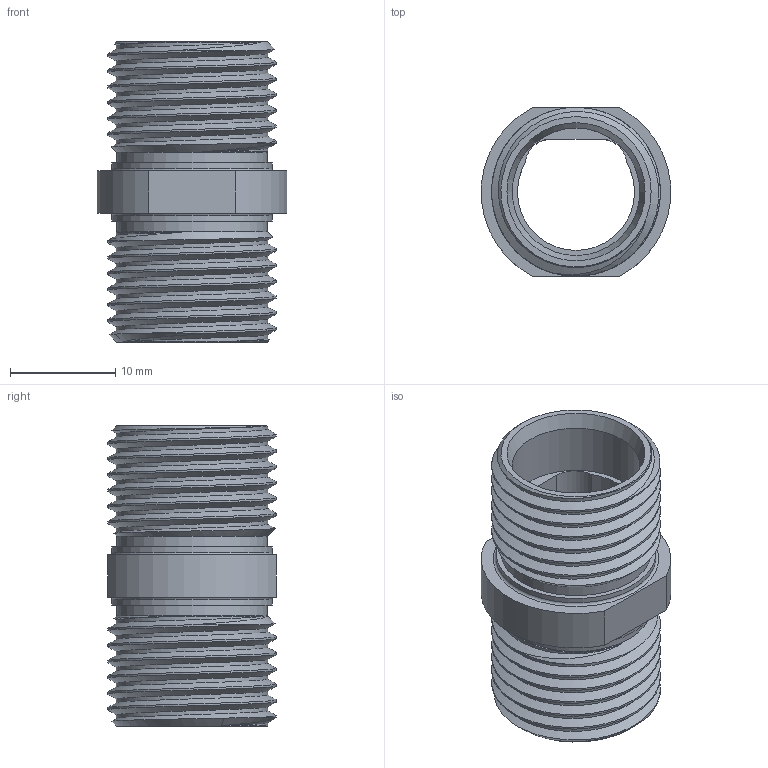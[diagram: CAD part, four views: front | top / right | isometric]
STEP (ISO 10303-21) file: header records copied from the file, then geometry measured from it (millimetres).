
FILE_DESCRIPTION (( 'STEP AP203' ), '1' );
FILE_NAME ('COB-1005 Coupler.STEP', '2022-11-05T02:52:59', ( '' ), ( '' ), 'SwSTEP 2.0', 'SolidWorks 2022', '' );
FILE_SCHEMA (( 'CONFIG_CONTROL_DESIGN' ));
Length unit declared in the file: millimetre
Products named in the file (1): COB-1005 Coupler
Bounding box: 17.94 x 16 x 28.5 mm (x, y, z)
Volume: 2282.1 mm3; surface area: 3271.5 mm2
Topology: 1 solids, 1 shells, 39 faces, 86 edges, 55 vertices
Faces by surface type: cylinder 13, plane 11, cone 7, bspline 6, torus 2
Full cylindrical faces by diameter (mm): 12.1 x2, 14.25 x2, 15.2 x2
Entity records: 3703 total; most frequent: CARTESIAN_POINT 2903, DIRECTION 144, ORIENTED_EDGE 132, EDGE_CURVE 66, AXIS2_PLACEMENT_3D 65, EDGE_LOOP 60, VERTEX_POINT 50, FACE_OUTER_BOUND 46
